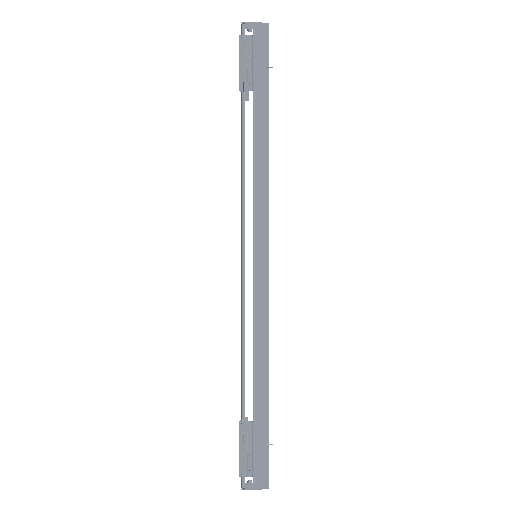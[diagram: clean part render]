
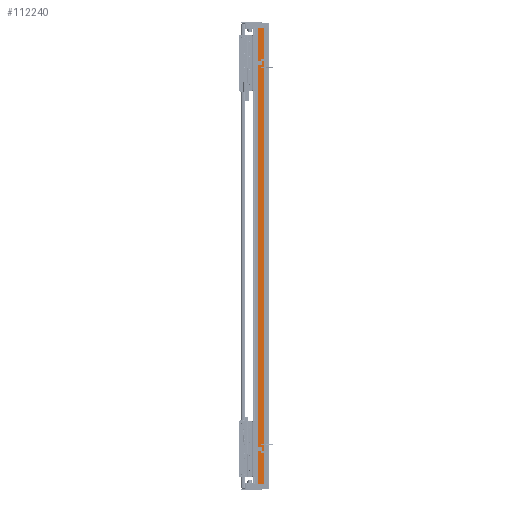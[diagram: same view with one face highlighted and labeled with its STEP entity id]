
A CAD part, left-side view. The second image highlights one B-rep face of the part: STEP entity #112240.
In plain terms, the highlighted planar face has unit normal (-1, 0, 0).
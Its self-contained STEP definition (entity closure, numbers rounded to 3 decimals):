
#485 = CARTESIAN_POINT ( 'NONE',  ( -97.5, 36.95, 780. ) ) ;
#2805 = LINE ( 'NONE', #40356, #107477 ) ;
#9610 = CARTESIAN_POINT ( 'NONE',  ( -97.5, 36.95, 780. ) ) ;
#10397 = CARTESIAN_POINT ( 'NONE',  ( -97.5, 36.95, 780. ) ) ;
#12004 = LINE ( 'NONE', #161960, #61579 ) ;
#15272 = DIRECTION ( 'NONE',  ( 0., 0., -1. ) ) ;
#18925 = CARTESIAN_POINT ( 'NONE',  ( -97.5, 14.45, -780. ) ) ;
#19395 = ORIENTED_EDGE ( 'NONE', *, *, #95976, .T. ) ;
#31639 = EDGE_CURVE ( 'NONE', #158592, #147079, #90299, .T. ) ;
#36367 = PLANE ( 'NONE',  #70713 ) ;
#37038 = CARTESIAN_POINT ( 'NONE',  ( -97.5, 36.95, -780. ) ) ;
#40356 = CARTESIAN_POINT ( 'NONE',  ( -97.5, 14.45, 780. ) ) ;
#45239 = ORIENTED_EDGE ( 'NONE', *, *, #102980, .F. ) ;
#45587 = VERTEX_POINT ( 'NONE', #9610 ) ;
#57651 = EDGE_CURVE ( 'NONE', #118885, #147079, #2805, .T. ) ;
#61579 = VECTOR ( 'NONE', #88692, 1000. ) ;
#62847 = DIRECTION ( 'NONE',  ( 0., -1., 0. ) ) ;
#63195 = CARTESIAN_POINT ( 'NONE',  ( -97.5, 36.95, -780. ) ) ;
#70713 = AXIS2_PLACEMENT_3D ( 'NONE', #485, #140391, #152888 ) ;
#75494 = FACE_OUTER_BOUND ( 'NONE', #123416, .T. ) ;
#76123 = VECTOR ( 'NONE', #62847, 1000. ) ;
#87085 = DIRECTION ( 'NONE',  ( 0., 0., -1. ) ) ;
#88692 = DIRECTION ( 'NONE',  ( 0., -1., 0. ) ) ;
#90299 = LINE ( 'NONE', #37038, #76123 ) ;
#95976 = EDGE_CURVE ( 'NONE', #45587, #158592, #161182, .T. ) ;
#102980 = EDGE_CURVE ( 'NONE', #45587, #118885, #12004, .T. ) ;
#107477 = VECTOR ( 'NONE', #15272, 1000. ) ;
#112240 = ADVANCED_FACE ( 'NONE', ( #75494 ), #36367, .F. ) ;
#118885 = VERTEX_POINT ( 'NONE', #157069 ) ;
#123416 = EDGE_LOOP ( 'NONE', ( #146914, #136277, #45239, #19395 ) ) ;
#136277 = ORIENTED_EDGE ( 'NONE', *, *, #57651, .F. ) ;
#140391 = DIRECTION ( 'NONE',  ( 1., 0., 0. ) ) ;
#146914 = ORIENTED_EDGE ( 'NONE', *, *, #31639, .T. ) ;
#147079 = VERTEX_POINT ( 'NONE', #18925 ) ;
#150514 = VECTOR ( 'NONE', #87085, 1000. ) ;
#152888 = DIRECTION ( 'NONE',  ( 0., 1., 0. ) ) ;
#157069 = CARTESIAN_POINT ( 'NONE',  ( -97.5, 14.45, 780. ) ) ;
#158592 = VERTEX_POINT ( 'NONE', #63195 ) ;
#161182 = LINE ( 'NONE', #10397, #150514 ) ;
#161960 = CARTESIAN_POINT ( 'NONE',  ( -97.5, 36.95, 780. ) ) ;
